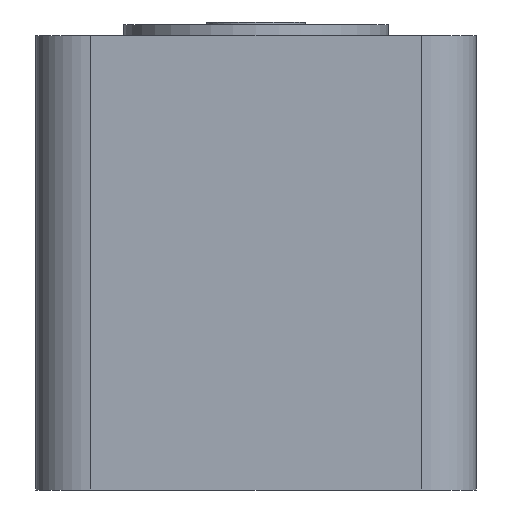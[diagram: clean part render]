
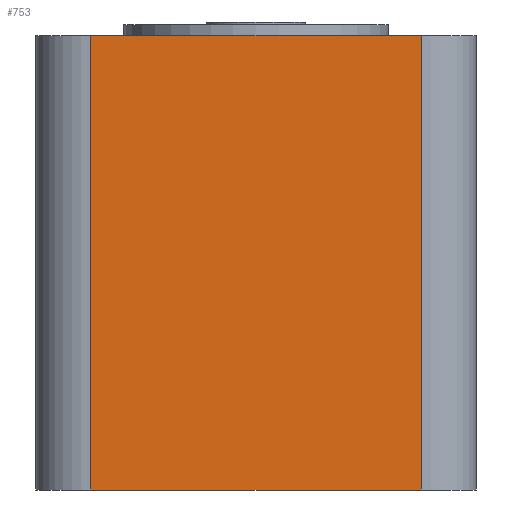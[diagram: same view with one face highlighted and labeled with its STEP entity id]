
A CAD part, left-side view. The second image highlights one B-rep face of the part: STEP entity #753.
In plain terms, the highlighted planar face has unit normal (-1, 0, 0).
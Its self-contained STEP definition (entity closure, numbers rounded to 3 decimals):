
#46=PLANE('',#843);
#70=LINE('',#1422,#107);
#76=LINE('',#1441,#113);
#77=LINE('',#1444,#114);
#78=LINE('',#1445,#115);
#107=VECTOR('',#1000,10.);
#113=VECTOR('',#1020,10.);
#114=VECTOR('',#1023,10.);
#115=VECTOR('',#1024,10.);
#167=FACE_OUTER_BOUND('',#213,.T.);
#213=EDGE_LOOP('',(#594,#595,#596,#597));
#355=VERTEX_POINT('',#1419);
#356=VERTEX_POINT('',#1421);
#362=VERTEX_POINT('',#1439);
#363=VERTEX_POINT('',#1443);
#445=EDGE_CURVE('',#355,#356,#70,.T.);
#455=EDGE_CURVE('',#362,#355,#76,.T.);
#456=EDGE_CURVE('',#362,#363,#77,.T.);
#457=EDGE_CURVE('',#356,#363,#78,.T.);
#594=ORIENTED_EDGE('',*,*,#455,.F.);
#595=ORIENTED_EDGE('',*,*,#456,.T.);
#596=ORIENTED_EDGE('',*,*,#457,.F.);
#597=ORIENTED_EDGE('',*,*,#445,.F.);
#753=ADVANCED_FACE('',(#167),#46,.T.);
#843=AXIS2_PLACEMENT_3D('',#1442,#1021,#1022);
#1000=DIRECTION('',(0.,-1.,0.));
#1020=DIRECTION('',(0.,0.,1.));
#1021=DIRECTION('center_axis',(-1.,0.,0.));
#1022=DIRECTION('ref_axis',(0.,-1.,0.));
#1023=DIRECTION('',(0.,-1.,0.));
#1024=DIRECTION('',(0.,0.,-1.));
#1419=CARTESIAN_POINT('',(-15.849,4.,16.5));
#1421=CARTESIAN_POINT('',(-15.849,-8.,16.5));
#1422=CARTESIAN_POINT('',(-15.849,6.,16.5));
#1439=CARTESIAN_POINT('',(-15.849,4.,0.));
#1441=CARTESIAN_POINT('',(-15.849,4.,0.));
#1442=CARTESIAN_POINT('Origin',(-15.849,6.,0.));
#1443=CARTESIAN_POINT('',(-15.849,-8.,0.));
#1444=CARTESIAN_POINT('',(-15.849,6.,0.));
#1445=CARTESIAN_POINT('',(-15.849,-8.,0.));
